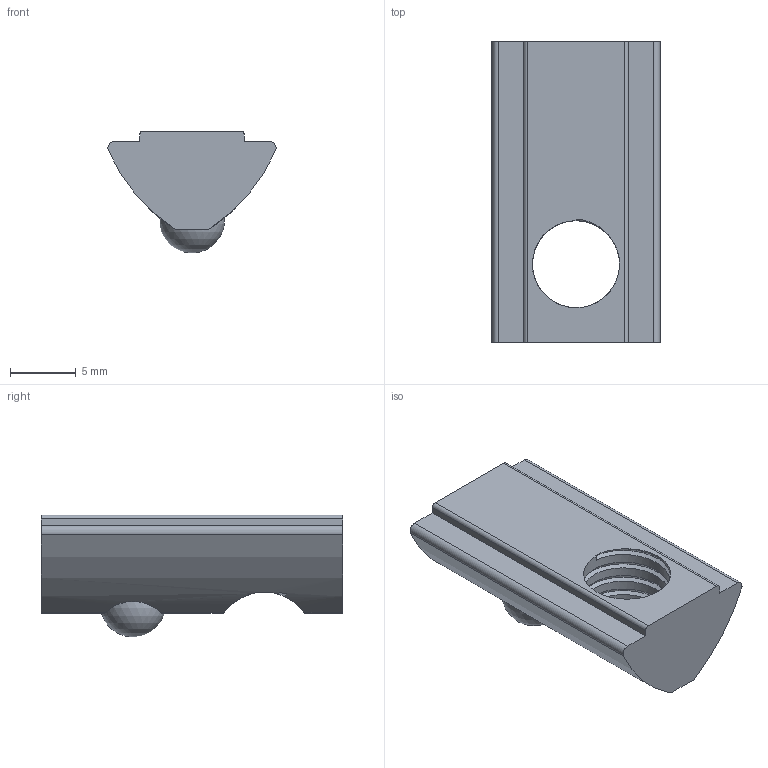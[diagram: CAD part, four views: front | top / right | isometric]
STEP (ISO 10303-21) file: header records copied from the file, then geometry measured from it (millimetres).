
FILE_DESCRIPTION(('FreeCAD Model'),'2;1');
FILE_NAME('Open CASCADE Shape Model','2021-05-04T11:57:41',('Author'),( ''),'Open CASCADE STEP processor 7.5','FreeCAD','Unknown');
FILE_SCHEMA(('AUTOMOTIVE_DESIGN { 1 0 10303 214 1 1 1 1 }'));
Length unit declared in the file: millimetre
Products named in the file (3): Unnamed; 1; 2
Assembly tree (2 placements, depth 2):
  Unnamed
    1
    2
Bounding box: 12.82 x 23 x 9.3 mm (x, y, z)
Volume: 1240.1 mm3; surface area: 1162 mm2
Topology: 2 solids, 2 shells, 30 faces, 87 edges, 58 vertices
Faces by surface type: cylinder 14, plane 13, bspline 2, sphere 1
Full cylindrical faces by diameter (mm): 5.01 x1
Entity records: 6272 total; most frequent: CARTESIAN_POINT 4419, DIRECTION 271, ORIENTED_EDGE 168, PCURVE 168, DEFINITIONAL_REPRESENTATION 168, LINE 142, VECTOR 142, EDGE_CURVE 84
